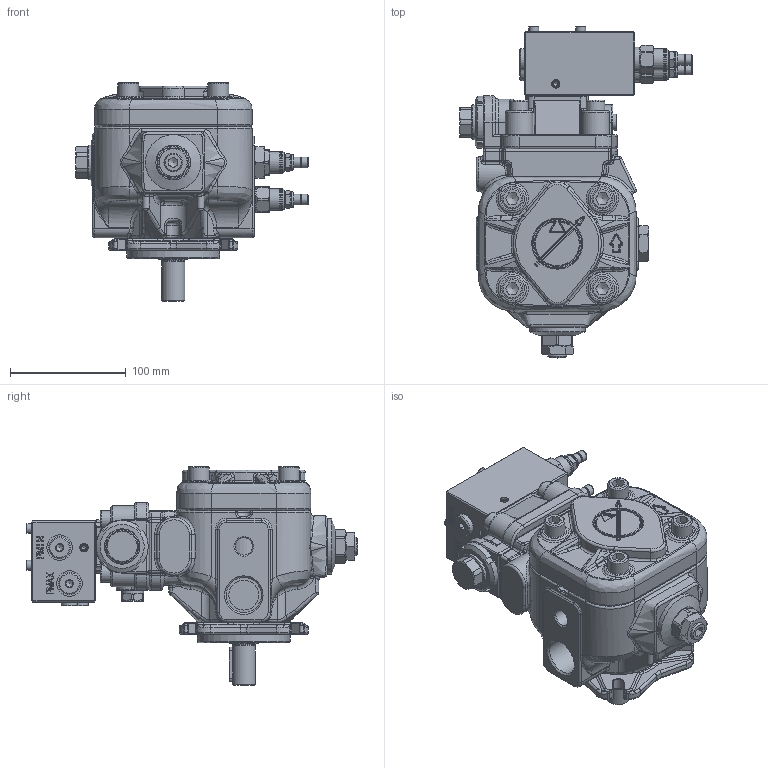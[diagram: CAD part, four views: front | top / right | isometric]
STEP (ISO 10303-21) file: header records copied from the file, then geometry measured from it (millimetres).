
FILE_DESCRIPTION(/* description */ (''),/* implementation_level */ '2;1');
FILE_NAME(/* name */ 'W:\Tecnico\Archivio\Berarma\Dimensioni Pompe\3D Export\Montaggio 3D semplificato\PLP-PHP 05\PHP05 FHRM PCS004.stp',/* time_stamp */ '2018-10-10T15:19:22+02:00',/* author */ ('marcop'),/* organization */ (''),/* preprocessor_version */ 'ST-DEVELOPER v17',/* originating_system */ 'Autodesk Inventor 2018',/* authorisation */ '');
FILE_SCHEMA (('AUTOMOTIVE_DESIGN { 1 0 10303 214 3 1 1 }'));
Products named in the file (1): PHP05_Shrinkwrap_1
Bounding box: 200.95 x 286.6 x 189 mm (x, y, z)
Volume: 2427475.4 mm3; surface area: 262897.3 mm2
Topology: 2 solids, 2 shells, 2594 faces, 6545 edges, 4022 vertices
Faces by surface type: plane 929, cylinder 575, bspline 446, torus 311, cone 278, sphere 55
Full cylindrical faces by diameter (mm): 0.9 x6, 1.7 x4, 2.5 x1, 4 x2, 4.134 x2, 5.5 x2, 6 x3, 6.5 x9, 7.2 x1, 7.671 x4, 8 x1, 8.5 x6, 8.566 x4, 9 x4, 9.347 x4, 9.5 x2, 11.445 x2, 12 x4, 13 x1, 13.487 x2, 13.5 x2, 13.767 x4, 14 x4, 14.224 x2, 14.5 x1, 14.63 x2, 14.95 x1, 15 x1, 15.5 x1, 16 x8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
Entity records: 94674 total; most frequent: CARTESIAN_POINT 32606, ORIENTED_EDGE 12878, DIRECTION 12060, EDGE_CURVE 6439, AXIS2_PLACEMENT_3D 4837, VERTEX_POINT 4022, EDGE_LOOP 2781, CIRCLE 2623
